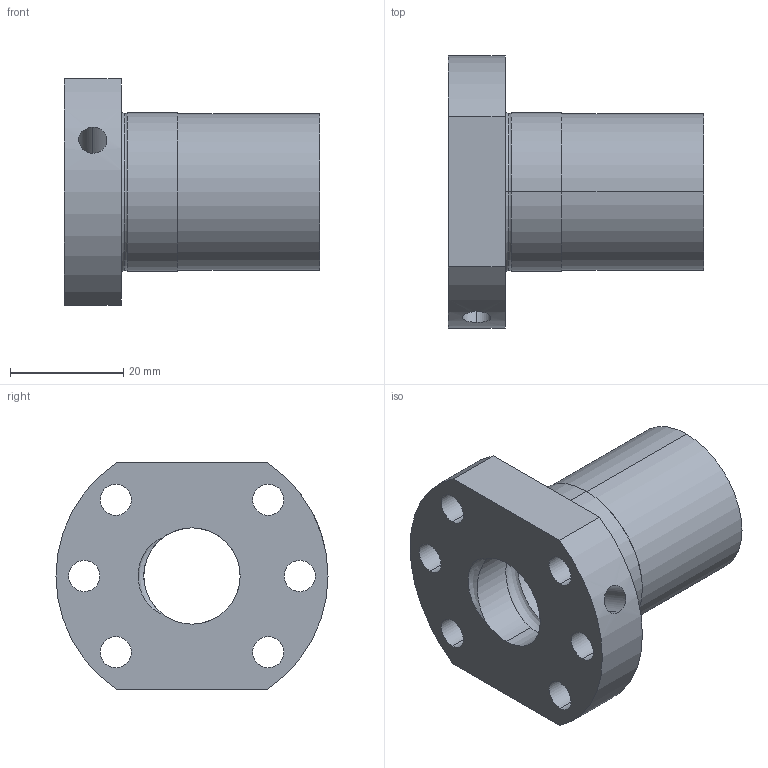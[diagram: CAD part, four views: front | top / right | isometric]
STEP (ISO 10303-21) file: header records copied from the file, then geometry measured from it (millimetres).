
FILE_DESCRIPTION (( 'STEP AP214' ), '1' );
FILE_NAME ('LLE1610-F.STEP', '2020-12-17T06:26:19', ( 'user' ), ( 'datathink' ), 'SwSTEP 2.0', 'SolidWorks 2013', '' );
FILE_SCHEMA (( 'AUTOMOTIVE_DESIGN' ));
Length unit declared in the file: millimetre
Products named in the file (1): LLE1610-F
Bounding box: 45 x 48 x 40 mm (x, y, z)
Volume: 25401.3 mm3; surface area: 11022.2 mm2
Topology: 1 solids, 1 shells, 45 faces, 122 edges, 80 vertices
Faces by surface type: cylinder 32, plane 7, torus 4, bspline 2
Entity records: 2941 total; most frequent: CARTESIAN_POINT 1763, ORIENTED_EDGE 244, DIRECTION 228, EDGE_CURVE 122, AXIS2_PLACEMENT_3D 95, VERTEX_POINT 80, EDGE_LOOP 62, CIRCLE 51
